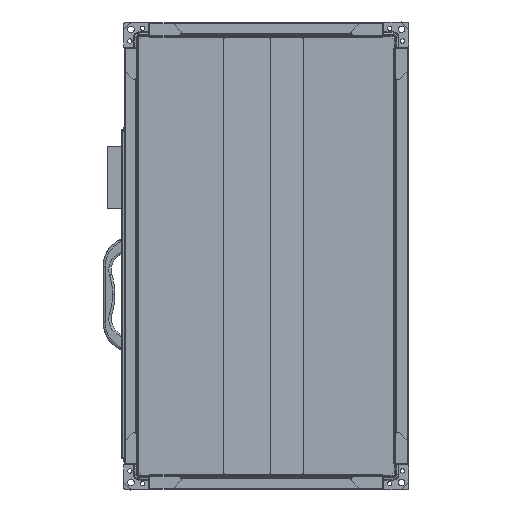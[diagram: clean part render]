
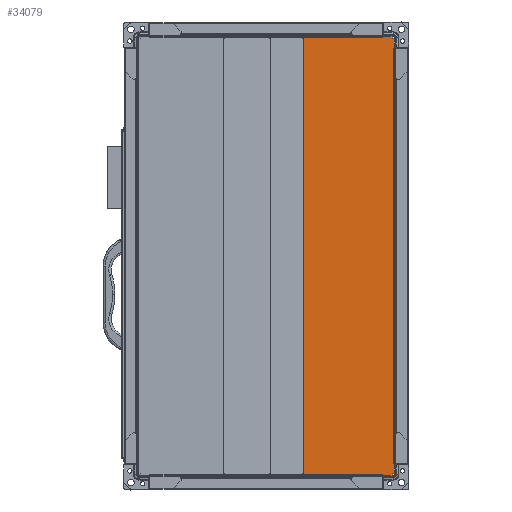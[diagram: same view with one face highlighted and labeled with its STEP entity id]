
A CAD part, left-side view. The second image highlights one B-rep face of the part: STEP entity #34079.
In plain terms, the highlighted planar face has unit normal (-1, 0, 0).
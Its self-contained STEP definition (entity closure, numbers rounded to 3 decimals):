
#2854=FACE_OUTER_BOUND('',#4654,.T.);
#4654=EDGE_LOOP('',(#24958,#24959,#24960,#24961,#24962,#24963,#24964,#24965,
#24966,#24967,#24968,#24969,#24970,#24971));
#7755=LINE('',#56235,#10958);
#7759=LINE('',#56243,#10962);
#7785=LINE('',#56299,#10988);
#7791=LINE('',#56312,#10994);
#7814=LINE('',#56354,#11017);
#7855=LINE('',#56426,#11058);
#7856=LINE('',#56428,#11059);
#7857=LINE('',#56429,#11060);
#7858=LINE('',#56431,#11061);
#7859=LINE('',#56432,#11062);
#7860=LINE('',#56434,#11063);
#7861=LINE('',#56436,#11064);
#7862=LINE('',#56437,#11065);
#7863=LINE('',#56438,#11066);
#10958=VECTOR('',#39920,10.);
#10962=VECTOR('',#39926,10.);
#10988=VECTOR('',#39968,10.);
#10994=VECTOR('',#39976,10.);
#11017=VECTOR('',#40007,10.);
#11058=VECTOR('',#40064,10.);
#11059=VECTOR('',#40065,10.);
#11060=VECTOR('',#40066,10.);
#11061=VECTOR('',#40067,10.);
#11062=VECTOR('',#40068,10.);
#11063=VECTOR('',#40069,10.);
#11064=VECTOR('',#40070,10.);
#11065=VECTOR('',#40071,10.);
#11066=VECTOR('',#40072,10.);
#14248=VERTEX_POINT('',#56233);
#14249=VERTEX_POINT('',#56234);
#14252=VERTEX_POINT('',#56242);
#14273=VERTEX_POINT('',#56297);
#14274=VERTEX_POINT('',#56298);
#14279=VERTEX_POINT('',#56309);
#14280=VERTEX_POINT('',#56311);
#14295=VERTEX_POINT('',#56353);
#14317=VERTEX_POINT('',#56424);
#14318=VERTEX_POINT('',#56425);
#14319=VERTEX_POINT('',#56427);
#14320=VERTEX_POINT('',#56430);
#14321=VERTEX_POINT('',#56433);
#14322=VERTEX_POINT('',#56435);
#18090=EDGE_CURVE('',#14248,#14249,#7755,.T.);
#18094=EDGE_CURVE('',#14249,#14252,#7759,.T.);
#18120=EDGE_CURVE('',#14273,#14274,#7785,.T.);
#18126=EDGE_CURVE('',#14279,#14280,#7791,.T.);
#18149=EDGE_CURVE('',#14273,#14295,#7814,.T.);
#18190=EDGE_CURVE('',#14317,#14318,#7855,.T.);
#18191=EDGE_CURVE('',#14317,#14319,#7856,.T.);
#18192=EDGE_CURVE('',#14252,#14319,#7857,.T.);
#18193=EDGE_CURVE('',#14248,#14320,#7858,.T.);
#18194=EDGE_CURVE('',#14295,#14320,#7859,.T.);
#18195=EDGE_CURVE('',#14321,#14274,#7860,.T.);
#18196=EDGE_CURVE('',#14322,#14321,#7861,.T.);
#18197=EDGE_CURVE('',#14322,#14280,#7862,.T.);
#18198=EDGE_CURVE('',#14318,#14279,#7863,.T.);
#24958=ORIENTED_EDGE('',*,*,#18190,.F.);
#24959=ORIENTED_EDGE('',*,*,#18191,.T.);
#24960=ORIENTED_EDGE('',*,*,#18192,.F.);
#24961=ORIENTED_EDGE('',*,*,#18094,.F.);
#24962=ORIENTED_EDGE('',*,*,#18090,.F.);
#24963=ORIENTED_EDGE('',*,*,#18193,.T.);
#24964=ORIENTED_EDGE('',*,*,#18194,.F.);
#24965=ORIENTED_EDGE('',*,*,#18149,.F.);
#24966=ORIENTED_EDGE('',*,*,#18120,.T.);
#24967=ORIENTED_EDGE('',*,*,#18195,.F.);
#24968=ORIENTED_EDGE('',*,*,#18196,.F.);
#24969=ORIENTED_EDGE('',*,*,#18197,.T.);
#24970=ORIENTED_EDGE('',*,*,#18126,.F.);
#24971=ORIENTED_EDGE('',*,*,#18198,.F.);
#31595=PLANE('',#35668);
#34079=ADVANCED_FACE('',(#2854),#31595,.F.);
#35668=AXIS2_PLACEMENT_3D('',#56423,#40062,#40063);
#39920=DIRECTION('',(0.,0.,1.));
#39926=DIRECTION('',(0.,-1.,0.));
#39968=DIRECTION('',(0.,0.,-1.));
#39976=DIRECTION('',(0.,1.,0.));
#40007=DIRECTION('',(0.,1.,0.));
#40062=DIRECTION('center_axis',(1.,0.,0.));
#40063=DIRECTION('ref_axis',(0.,-1.,0.));
#40064=DIRECTION('',(0.,-1.,0.));
#40065=DIRECTION('',(0.,1.,0.));
#40066=DIRECTION('',(0.,0.,-1.));
#40067=DIRECTION('',(0.,1.,0.));
#40068=DIRECTION('',(0.,0.,1.));
#40069=DIRECTION('',(0.,1.,0.));
#40070=DIRECTION('',(0.,0.,-1.));
#40071=DIRECTION('',(0.,-1.,0.));
#40072=DIRECTION('',(0.,0.,-1.));
#56233=CARTESIAN_POINT('',(656.536,-239.625,581.5));
#56234=CARTESIAN_POINT('',(656.536,-239.625,583.5));
#56235=CARTESIAN_POINT('',(656.536,-239.625,433.25));
#56242=CARTESIAN_POINT('',(656.536,-361.332,583.5));
#56243=CARTESIAN_POINT('',(656.536,-330.905,583.5));
#56297=CARTESIAN_POINT('',(656.536,-239.625,-13.5));
#56298=CARTESIAN_POINT('',(656.536,-239.625,-15.5));
#56299=CARTESIAN_POINT('',(656.536,-239.625,134.75));
#56309=CARTESIAN_POINT('',(656.536,-363.342,-13.5));
#56311=CARTESIAN_POINT('',(656.536,-361.342,-13.5));
#56312=CARTESIAN_POINT('',(656.536,-331.606,-13.5));
#56353=CARTESIAN_POINT('',(656.536,-239.211,-13.5));
#56354=CARTESIAN_POINT('',(656.536,-331.13,-13.5));
#56423=CARTESIAN_POINT('Origin',(656.536,-300.918,284.));
#56424=CARTESIAN_POINT('',(656.536,-361.342,581.5));
#56425=CARTESIAN_POINT('',(656.536,-363.342,581.5));
#56426=CARTESIAN_POINT('',(656.536,-331.606,581.5));
#56427=CARTESIAN_POINT('',(656.536,-361.332,581.5));
#56428=CARTESIAN_POINT('',(656.536,-270.272,581.5));
#56429=CARTESIAN_POINT('',(656.536,-361.332,582.5));
#56430=CARTESIAN_POINT('',(656.536,-239.211,581.5));
#56431=CARTESIAN_POINT('',(656.536,-270.272,581.5));
#56432=CARTESIAN_POINT('',(656.536,-239.211,284.));
#56433=CARTESIAN_POINT('',(656.536,-361.332,-15.5));
#56434=CARTESIAN_POINT('',(656.536,-270.052,-15.5));
#56435=CARTESIAN_POINT('',(656.536,-361.332,-13.5));
#56436=CARTESIAN_POINT('',(656.536,-361.332,134.75));
#56437=CARTESIAN_POINT('',(656.536,-331.13,-13.5));
#56438=CARTESIAN_POINT('',(656.536,-363.342,284.));
